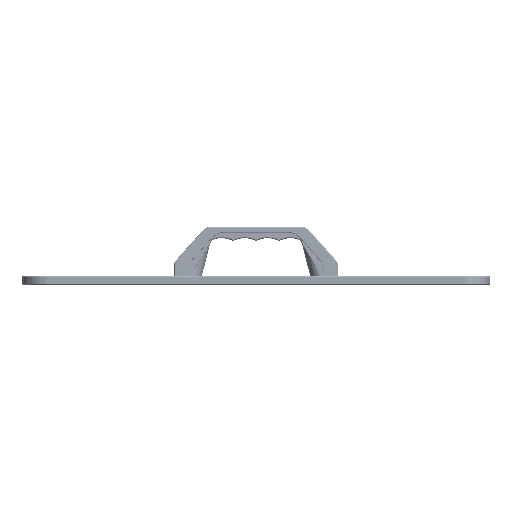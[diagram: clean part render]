
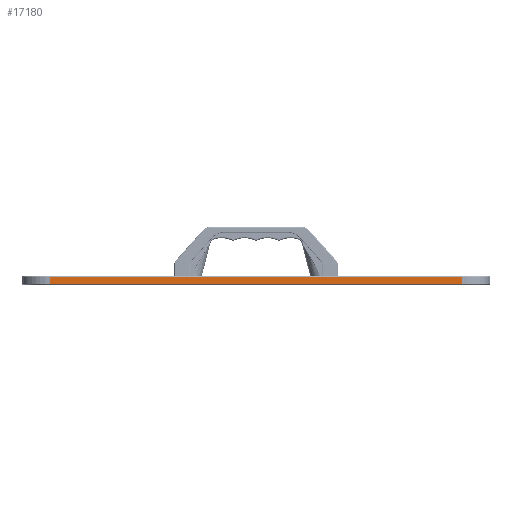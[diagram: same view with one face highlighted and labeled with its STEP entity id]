
A CAD part, left-side view. The second image highlights one B-rep face of the part: STEP entity #17180.
In plain terms, the highlighted planar face has unit normal (-1, 0, 0).
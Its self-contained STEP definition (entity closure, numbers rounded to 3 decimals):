
#7440=LINE('',#91393,#11416);
#7441=LINE('',#91397,#11417);
#7442=LINE('',#91399,#11418);
#7443=LINE('',#91401,#11419);
#11416=VECTOR('',#67513,1.);
#11417=VECTOR('',#67518,1.);
#11418=VECTOR('',#67519,1.);
#11419=VECTOR('',#67520,1.);
#14862=FACE_OUTER_BOUND('',#25997,.T.);
#17180=ADVANCED_FACE('',(#14862),#20080,.T.);
#20080=PLANE('',#60281);
#25997=EDGE_LOOP('',(#33953,#33954,#33955,#33956));
#33953=ORIENTED_EDGE('',*,*,#52546,.F.);
#33954=ORIENTED_EDGE('',*,*,#52548,.T.);
#33955=ORIENTED_EDGE('',*,*,#52549,.T.);
#33956=ORIENTED_EDGE('',*,*,#52550,.T.);
#46771=VERTEX_POINT('',#91392);
#46772=VERTEX_POINT('',#91394);
#46773=VERTEX_POINT('',#91398);
#46774=VERTEX_POINT('',#91400);
#52546=EDGE_CURVE('',#46771,#46772,#7440,.T.);
#52548=EDGE_CURVE('',#46771,#46773,#7441,.T.);
#52549=EDGE_CURVE('',#46773,#46774,#7442,.T.);
#52550=EDGE_CURVE('',#46774,#46772,#7443,.T.);
#60281=AXIS2_PLACEMENT_3D('',#91402,#67521,#67522);
#67513=DIRECTION('',(0.,0.,1.));
#67518=DIRECTION('',(0.,-1.,0.));
#67519=DIRECTION('',(0.,0.,1.));
#67520=DIRECTION('',(0.,1.,0.));
#67521=DIRECTION('',(-1.,0.,0.));
#67522=DIRECTION('',(0.,0.,-1.));
#91392=CARTESIAN_POINT('',(-255.,225.,-9.));
#91393=CARTESIAN_POINT('',(-255.,225.,-10.));
#91394=CARTESIAN_POINT('',(-255.,225.,-1.));
#91397=CARTESIAN_POINT('',(-255.,-225.,-9.));
#91398=CARTESIAN_POINT('',(-255.,-225.,-9.));
#91399=CARTESIAN_POINT('',(-255.,-225.,-10.));
#91400=CARTESIAN_POINT('',(-255.,-225.,-1.));
#91401=CARTESIAN_POINT('',(-255.,225.,-1.));
#91402=CARTESIAN_POINT('',(-255.,225.,-10.));
